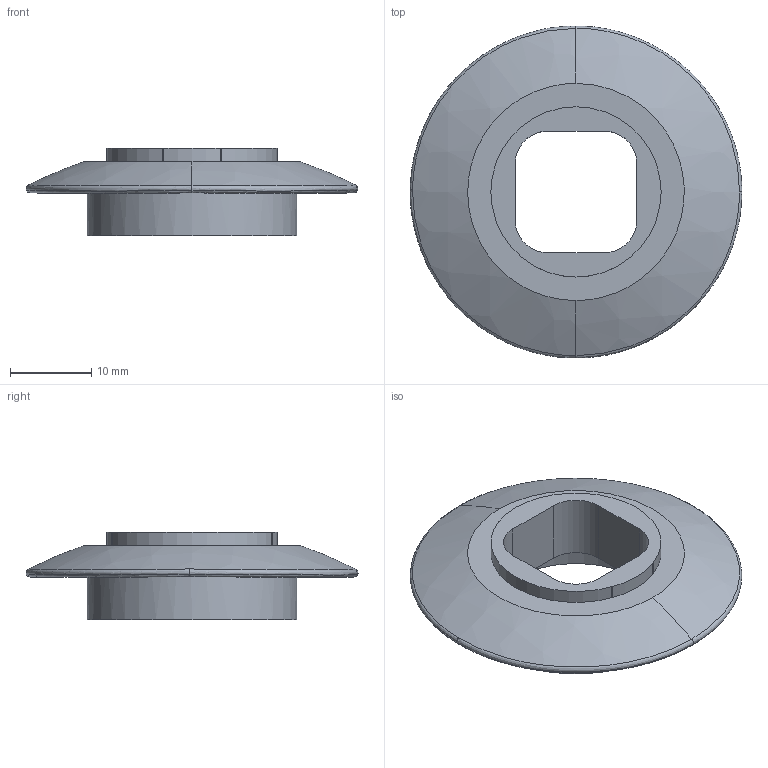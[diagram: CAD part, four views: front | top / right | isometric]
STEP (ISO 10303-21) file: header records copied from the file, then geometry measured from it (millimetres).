
FILE_DESCRIPTION(/* description */ (''),/* implementation_level */ '2;1');
FILE_NAME(/* name */ 'LAST_Grip 08.stp',/* time_stamp */ '2025-11-19T21:11:33+09:00',/* author */ (''),/* organization */ (''),/* preprocessor_version */ 'ST-DEVELOPER v11',/* originating_system */ 'SIEMENS PLM Software NX 7.5',/* authorisation */ '');
FILE_SCHEMA (('CONFIG_CONTROL_DESIGN'));
Length unit declared in the file: millimetre
Products named in the file (1): gyun8741ynvv
Bounding box: 40.92 x 40.96 x 10.76 mm (x, y, z)
Volume: 3522.5 mm3; surface area: 3759.7 mm2
Topology: 1 solids, 1 shells, 36 faces, 86 edges, 54 vertices
Faces by surface type: bspline 14, cylinder 10, plane 8, extrusion 4
Full cylindrical faces by diameter (mm): 21.3 x1, 25.882 x1
Entity records: 4457 total; most frequent: CARTESIAN_POINT 3653, ORIENTED_EDGE 166, DIRECTION 110, EDGE_CURVE 83, VERTEX_POINT 53, EDGE_LOOP 42, B_SPLINE_CURVE_WITH_KNOTS 42, AXIS2_PLACEMENT_3D 41
